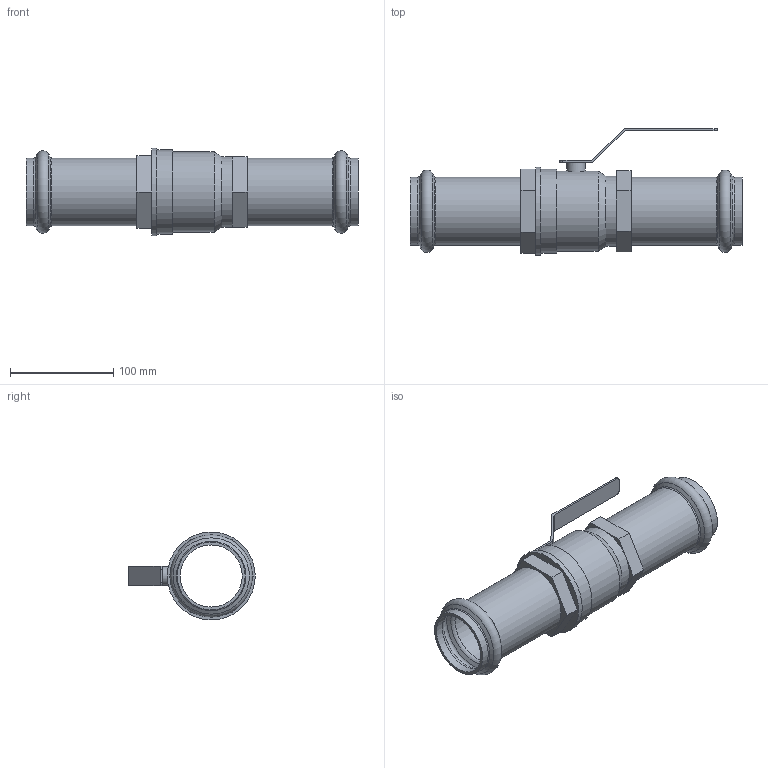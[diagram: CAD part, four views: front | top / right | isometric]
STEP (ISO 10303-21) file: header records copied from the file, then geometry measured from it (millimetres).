
FILE_DESCRIPTION(/* description */ ('VIC-PRESS 304 BRASS BODY BALL VALVE SERIES P589 (P X P)','CAx-IF Rec.Pracs.---Representation and Presentation of Product Manufacturing Information (PMI)---4.0---2014-10-13'),/* implementation_level */ '2;1');
FILE_NAME(/* name */ 'C:\Users\Vjadhav\AppData\Roaming\Autodesk\ApplicationPlugins\Back Up\Victaulic_SS-Vic-Press-TP 304_Valve Ball Brass Body_Series P589 (VP)\Victaulic_SS-Vic-Press-TP 304_Valve Ball Brass Body_Series P589 (VP)_2 (50).stp',/* time_stamp */ '2020-08-12T19:25:30+06:00',/* author */ ('cps_temp'),/* organization */ ('Victaulic'),/* preprocessor_version */ 'ST-DEVELOPER v17.2',/* originating_system */ 'Autodesk Inventor 2019',/* authorisation */ '');
FILE_SCHEMA (('AP242_MANAGED_MODEL_BASED_3D_ENGINEERING_MIM_LF { 1 0 10303 442 1 1 4 }'));
Length unit declared in the file: inch
Products named in the file (1): P589-02.0
Bounding box: 322.33 x 122.73 x 85.43 mm (x, y, z)
Volume: 319900.1 mm3; surface area: 151512.8 mm2
Topology: 1 solids, 1 shells, 72 faces, 219 edges, 156 vertices
Faces by surface type: plane 35, cylinder 16, torus 12, cone 9
Full cylindrical faces by diameter (mm): 18.288 x1, 60.325 x3, 65.862 x4, 68.148 x1, 77.814 x1, 81.624 x1, 85.434 x1
Entity records: 2825 total; most frequent: DIRECTION 515, CARTESIAN_POINT 499, ORIENTED_EDGE 438, EDGE_CURVE 219, AXIS2_PLACEMENT_3D 212, VERTEX_POINT 156, CIRCLE 126, LINE 91
